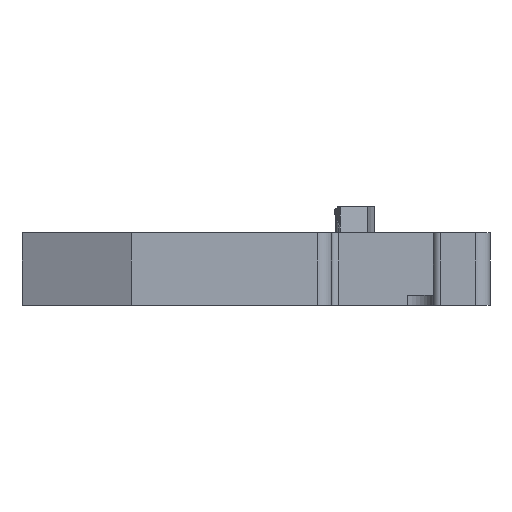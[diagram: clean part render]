
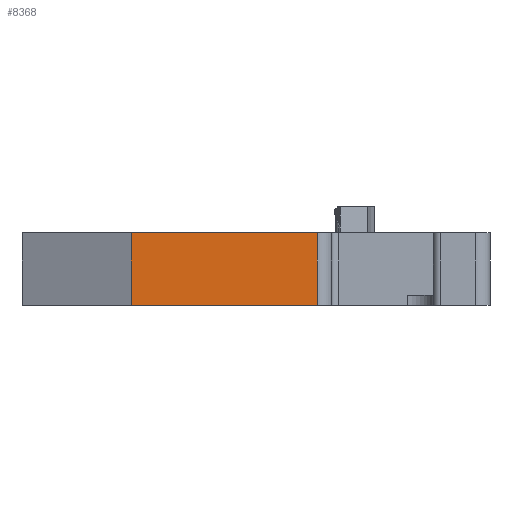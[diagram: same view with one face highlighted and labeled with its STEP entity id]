
A CAD part, left-side view. The second image highlights one B-rep face of the part: STEP entity #8368.
In plain terms, the highlighted planar face has unit normal (-1, 0, 0).
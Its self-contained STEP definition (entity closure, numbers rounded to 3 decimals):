
#945 = FACE_OUTER_BOUND ( 'NONE', #24314, .T. ) ;
#1084 = ORIENTED_EDGE ( 'NONE', *, *, #4646, .T. ) ;
#4646 = EDGE_CURVE ( 'NONE', #31112, #19910, #13703, .T. ) ;
#4691 = DIRECTION ( 'NONE',  ( 0., -1., 0. ) ) ;
#4742 = CARTESIAN_POINT ( 'NONE',  ( -45.452, 38.845, -14.589 ) ) ;
#5797 = CARTESIAN_POINT ( 'NONE',  ( -45.452, 26.045, -14.589 ) ) ;
#6531 = CARTESIAN_POINT ( 'NONE',  ( -45.452, 38.845, -9.589 ) ) ;
#8368 = ADVANCED_FACE ( 'NONE', ( #945 ), #19978, .T. ) ;
#9443 = VECTOR ( 'NONE', #28339, 1000. ) ;
#9914 = DIRECTION ( 'NONE',  ( 0., -1., 0. ) ) ;
#10153 = EDGE_CURVE ( 'NONE', #19910, #13166, #10529, .T. ) ;
#10529 = LINE ( 'NONE', #29737, #20620 ) ;
#10939 = CARTESIAN_POINT ( 'NONE',  ( -45.452, 38.845, -14.589 ) ) ;
#11941 = DIRECTION ( 'NONE',  ( 0., -1., 0. ) ) ;
#13166 = VERTEX_POINT ( 'NONE', #32230 ) ;
#13703 = LINE ( 'NONE', #14614, #29766 ) ;
#14358 = DIRECTION ( 'NONE',  ( 0., 0., 1. ) ) ;
#14614 = CARTESIAN_POINT ( 'NONE',  ( -45.452, 38.845, -14.589 ) ) ;
#15189 = ORIENTED_EDGE ( 'NONE', *, *, #23386, .F. ) ;
#15849 = CARTESIAN_POINT ( 'NONE',  ( -45.452, 38.845, -9.589 ) ) ;
#16883 = AXIS2_PLACEMENT_3D ( 'NONE', #4742, #32948, #9914 ) ;
#19724 = VECTOR ( 'NONE', #4691, 1000. ) ;
#19910 = VERTEX_POINT ( 'NONE', #5797 ) ;
#19978 = PLANE ( 'NONE',  #16883 ) ;
#20401 = CARTESIAN_POINT ( 'NONE',  ( -45.452, 38.845, -14.589 ) ) ;
#20620 = VECTOR ( 'NONE', #14358, 1000. ) ;
#22189 = ORIENTED_EDGE ( 'NONE', *, *, #10153, .T. ) ;
#23322 = LINE ( 'NONE', #6531, #19724 ) ;
#23386 = EDGE_CURVE ( 'NONE', #31112, #25999, #28745, .T. ) ;
#24314 = EDGE_LOOP ( 'NONE', ( #25088, #15189, #1084, #22189 ) ) ;
#25088 = ORIENTED_EDGE ( 'NONE', *, *, #29128, .F. ) ;
#25999 = VERTEX_POINT ( 'NONE', #15849 ) ;
#28339 = DIRECTION ( 'NONE',  ( 0., 0., 1. ) ) ;
#28745 = LINE ( 'NONE', #20401, #9443 ) ;
#29128 = EDGE_CURVE ( 'NONE', #25999, #13166, #23322, .T. ) ;
#29737 = CARTESIAN_POINT ( 'NONE',  ( -45.452, 26.045, -14.589 ) ) ;
#29766 = VECTOR ( 'NONE', #11941, 1000. ) ;
#31112 = VERTEX_POINT ( 'NONE', #10939 ) ;
#32230 = CARTESIAN_POINT ( 'NONE',  ( -45.452, 26.045, -9.589 ) ) ;
#32948 = DIRECTION ( 'NONE',  ( -1., 0., 0. ) ) ;
